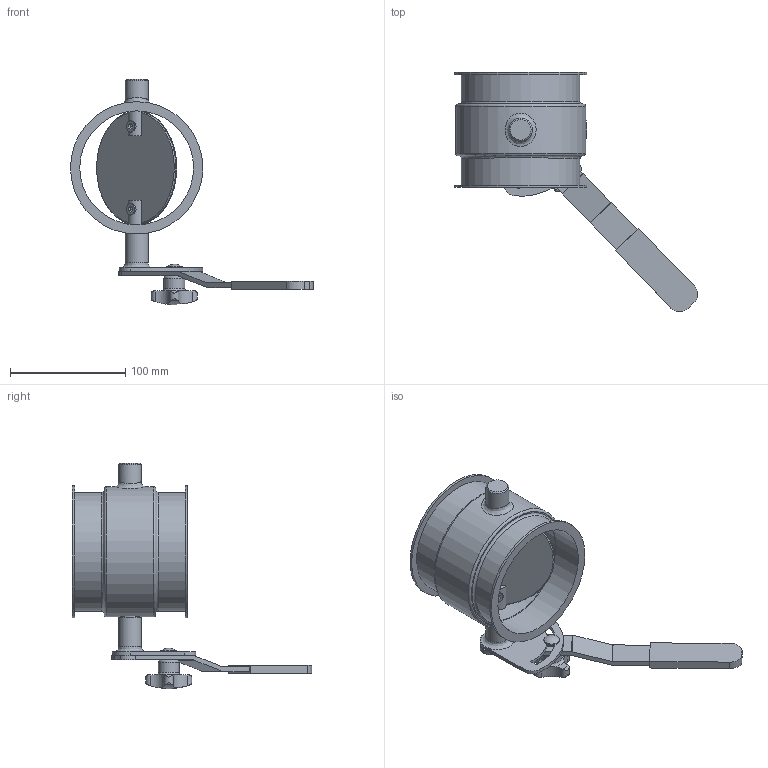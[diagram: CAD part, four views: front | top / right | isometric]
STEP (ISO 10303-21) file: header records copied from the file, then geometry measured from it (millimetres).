
FILE_DESCRIPTION((''),'2;1');
FILE_NAME('U:\Wolfgang\Marcel-3D\fertig\Kapitel 8\1021076.stp','2011-05-03T15:07:02',('TK1'),(''),'Autodesk Inventor 2010','Autodesk Inventor 2010','');
FILE_SCHEMA(('AUTOMOTIVE_DESIGN { 1 0 10303 214 1 1 1 1 }'));
Length unit declared in the file: millimetre
Products named in the file (9): 1021076; 1021076-1; Bolzen D15; ganter_din_6335-ku-40-m8-k; Griff D15; Umstellsegment D15; Scheibe100b; DIN 6912 M6 x 16; DIN 603 M5 x 25
Assembly tree (9 placements, depth 2):
  1021076
    1021076-1
    Bolzen D15
    ganter_din_6335-ku-40-m8-k
    Griff D15
    Umstellsegment D15
    Scheibe100b
    DIN 6912 M6 x 16  x2
    DIN 603 M5 x 25
Bounding box: 211.18 x 207.86 x 196 mm (x, y, z)
Volume: 234472.5 mm3; surface area: 159125.6 mm2
Topology: 9 solids, 9 shells, 182 faces, 429 edges, 280 vertices
Faces by surface type: plane 77, cylinder 62, cone 16, torus 13, bspline 12, sphere 2
Full cylindrical faces by diameter (mm): 3 x2, 5 x1, 6 x6, 6.4 x1, 7 x1, 10 x4, 13 x1, 13.55 x1, 15 x8, 18 x1, 20 x3, 99 x3, 100 x1, 103 x2, 108 x1, 109 x1, 113 x1, 115 x2
Entity records: 5967 total; most frequent: CARTESIAN_POINT 2175, DIRECTION 746, ORIENTED_EDGE 632, AXIS2_PLACEMENT_3D 320, EDGE_CURVE 316, EDGE_LOOP 269, VERTEX_POINT 241, FACE_OUTER_BOUND 167
